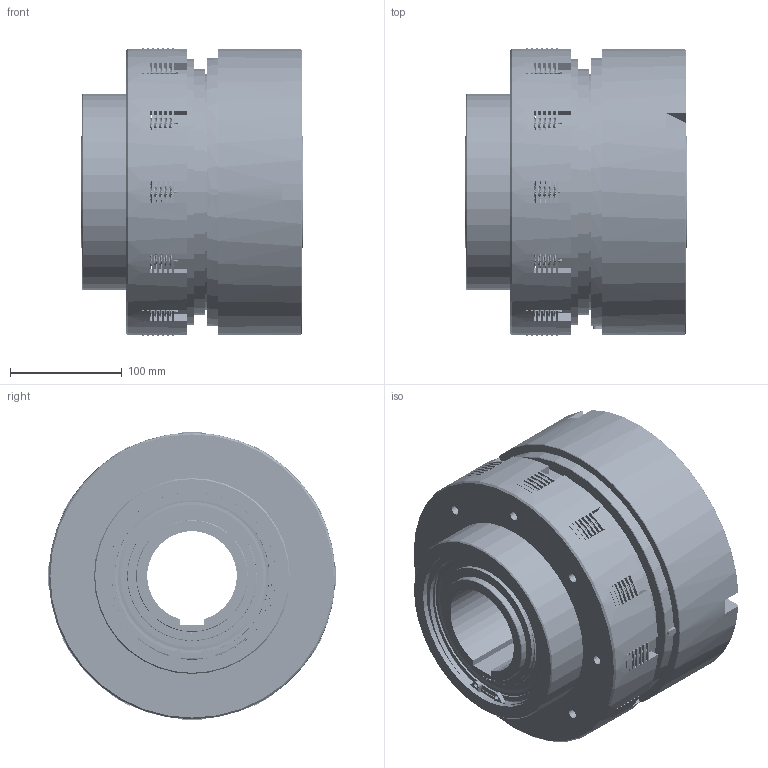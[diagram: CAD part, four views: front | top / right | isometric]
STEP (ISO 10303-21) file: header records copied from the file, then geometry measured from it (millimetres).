
FILE_DESCRIPTION(/* description */ (''),/* implementation_level */ '2;1');
FILE_NAME(/* name */ 'X:\INVENTOR\DISEGNI\03_Friz_Oleod_Pneum_Cil_Stat\03_06 LPR\03_06_012_01 LPR12\03_06_012_01 LPR12@STEP.stp',/* time_stamp */ '2023-02-03T16:37:48+01:00',/* author */ ('alessio'),/* organization */ (''),/* preprocessor_version */ 'ST-DEVELOPER v18.1',/* originating_system */ 'Autodesk Inventor 2021',/* authorisation */ '');
FILE_SCHEMA (('AUTOMOTIVE_DESIGN { 1 0 10303 214 3 1 1 }'));
Products named in the file (1): 03_06_012_01 LPR12
Bounding box: 198 x 256.92 x 256.92 mm (x, y, z)
Volume: 6669382.9 mm3; surface area: 1409065.1 mm2
Topology: 62 solids, 107 shells, 2856 faces, 8337 edges, 5502 vertices
Faces by surface type: cylinder 1493, plane 857, torus 251, cone 97, bspline 84, sphere 74
Full cylindrical faces by diameter (mm): 2 x12, 2.75 x72, 3.5 x4, 4 x4, 7 x12, 8.376 x32, 12 x1, 14.95 x1, 96.5 x2, 100 x8, 115.95 x12, 116 x4, 120 x1, 132.3 x6, 134 x2, 138 x2, 138.3 x6, 140 x2, 150 x8, 155 x1, 160 x3, 162.6 x4, 162.934 x1, 165 x1, 168 x6, 171.152 x1, 172 x1, 175 x3, 187.4 x2, 190 x1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
Entity records: 134934 total; most frequent: CARTESIAN_POINT 52344, DIRECTION 17772, ORIENTED_EDGE 16620, EDGE_CURVE 8310, AXIS2_PLACEMENT_3D 7398, VERTEX_POINT 5746, CIRCLE 4610, EDGE_LOOP 3516
